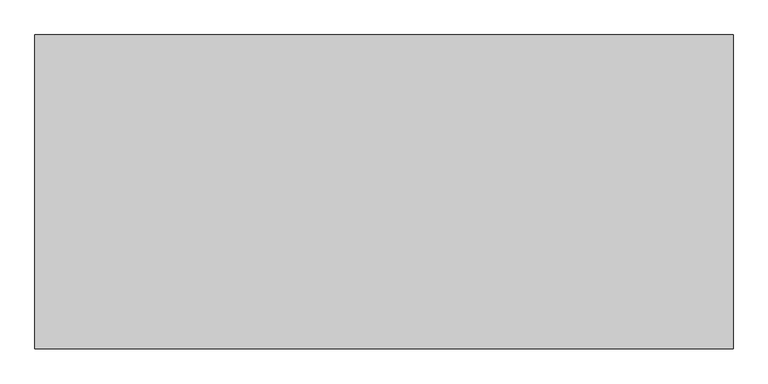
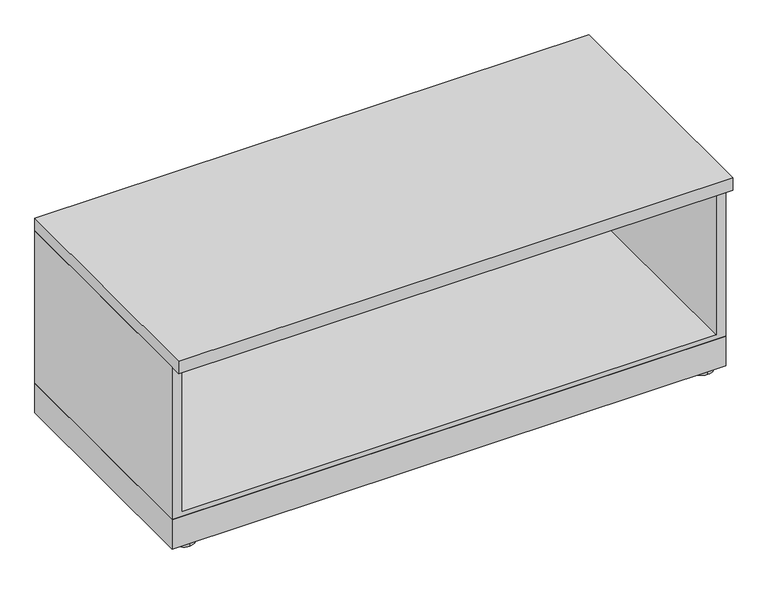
"""IFC4 building model written with IfcOpenShell, lengths in millimetres: furniture geometry, Steelcase - Universal Storage - Lateral File - 1 High - Proud Front : Open - 18 7/8D x 42W."""

from ifc_helpers import new_model, si_unit, point, frame, frame_2d, origin, origin_with_axes, place, context, project, spatial, polyline, circle_curve, trimmed, segment, composite_curve, outline, extrude, source, transform, mapped, element, save


def furniture_dc3f6ba8(model_context):
    return source(origin(), model_context, "Body", "SweptSolid", [
        extrude(outline(polyline([(1066.8, 0.0), (1066.8, -457.2), (0.0, -457.2), (0.0, 0.0), (1066.8, 0.0)])), frame((0.0, 0.0, 6.3500002), z_axis=(0.0, 0.0, 1.0), x_axis=(1.0, 0.0, 0.0)), (0.0, 0.0, 1.0), 59.6899998),
        extrude(outline(composite_curve([segment(trimmed(circle_curve(frame_2d((1032.1290058, -22.3366334)), 20.32), [point((1032.1290058, -42.6566334))], [point((1032.1290058, -2.0166334))], False, "CARTESIAN"), True, "CONTINUOUS"), segment(trimmed(circle_curve(frame_2d((1032.1290058, -22.3366334)), 20.32), [point((1032.1290058, -2.0166334))], [point((1032.1290058, -42.6566334))], False, "CARTESIAN"), True, "CONTINUOUS")], self_intersect=False)), origin_with_axes(), (0.0, 0.0, 1.0), 6.3500002),
        extrude(outline(composite_curve([segment(trimmed(circle_curve(frame_2d((1032.1290058, -436.4508545)), 20.32), [point((1032.1290058, -456.7708545))], [point((1032.1290058, -416.1308545))], False, "CARTESIAN"), True, "CONTINUOUS"), segment(trimmed(circle_curve(frame_2d((1032.1290058, -436.4508545)), 20.32), [point((1032.1290058, -416.1308545))], [point((1032.1290058, -456.7708545))], False, "CARTESIAN"), True, "CONTINUOUS")], self_intersect=False)), origin_with_axes(), (0.0, 0.0, 1.0), 6.3500002),
        extrude(outline(composite_curve([segment(trimmed(circle_curve(frame_2d((34.29, -22.3366334)), 20.32), [point((34.29, -2.0166334))], [point((34.29, -42.6566334))], False, "CARTESIAN"), True, "CONTINUOUS"), segment(trimmed(circle_curve(frame_2d((34.29, -22.3366334)), 20.32), [point((34.29, -42.6566334))], [point((34.29, -2.0166334))], False, "CARTESIAN"), True, "CONTINUOUS")], self_intersect=False)), origin_with_axes(), (0.0, 0.0, 1.0), 6.3500002),
        extrude(outline(composite_curve([segment(trimmed(circle_curve(frame_2d((34.29, -436.4508545)), 20.32), [point((34.29, -416.1308545))], [point((34.29, -456.7708545))], False, "CARTESIAN"), True, "CONTINUOUS"), segment(trimmed(circle_curve(frame_2d((34.29, -436.4508545)), 20.32), [point((34.29, -456.7708545))], [point((34.29, -416.1308545))], False, "CARTESIAN"), True, "CONTINUOUS")], self_intersect=False)), origin_with_axes(), (0.0, 0.0, 1.0), 6.3500002),
        extrude(outline(polyline([(376.301, 19.05), (376.301, 0.0), (66.04, 0.0), (66.04, 1066.8), (376.301, 1066.8), (376.301, 1047.75), (75.184001, 1047.75), (75.184001, 19.05), (376.301, 19.05)])), frame((0.0, -457.0730121, 0.0), z_axis=(0.0, 1.0, 0.0), x_axis=(0.0, 0.0, 1.0)), (0.0, 0.0, 1.0), 457.0730121),
        extrude(outline(polyline([(1047.75, 0.0), (1047.75, -3.9370001), (19.05, -3.9370001), (19.05, 0.0), (1047.75, 0.0)])), frame((0.0, 0.0, 75.184001), z_axis=(0.0, 0.0, 1.0), x_axis=(1.0, 0.0, 0.0)), (0.0, 0.0, 1.0), 301.116999),
        extrude(outline(polyline([(1066.8, 0.0), (1066.8, -479.298), (0.0, -479.298), (0.0, 0.0), (1066.8, 0.0)])), frame((0.0, 0.0, 376.301), z_axis=(0.0, 0.0, 1.0), x_axis=(1.0, 0.0, 0.0)), (0.0, 0.0, 1.0), 25.3999893),
    ])


if __name__ == "__main__":
    model = new_model("IFC4")
    model_context = context("Model", 3, world=origin())
    ifc_project = project(units=[si_unit("LENGTHUNIT", "METRE", prefix="MILLI")], contexts=[model_context])
    site = spatial("IfcSite", under=ifc_project)
    building = spatial("IfcBuilding", under=site)
    placement = place(None, origin())
    furniture_shape = furniture_dc3f6ba8(model_context)
    element("IfcFurniture", 1, ObjectType="Steelcase - Universal Storage - Lateral File - 1 High - Proud Front : Open - 18 7/8D x 42W", at=placement, inside=building, context=model_context, shape_type="MappedRepresentation", body=[
        mapped(furniture_shape, transform((0.0, 0.0, 0.0), x_axis=(1.0, 0.0, 0.0), y_axis=(0.0, 1.0, 0.0), z_axis=(0.0, 0.0, 1.0))),
    ])
    save(model, "model.ifc")
